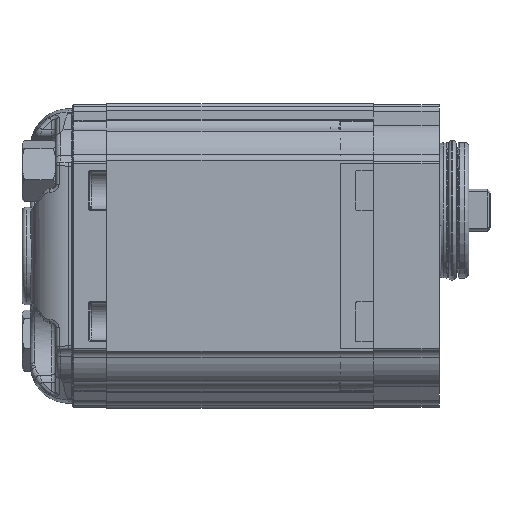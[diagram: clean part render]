
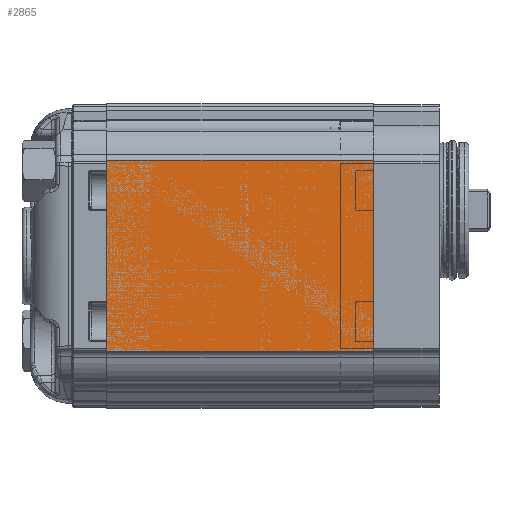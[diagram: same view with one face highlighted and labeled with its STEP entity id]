
A CAD part, left-side view. The second image highlights one B-rep face of the part: STEP entity #2865.
In plain terms, the highlighted planar face has unit normal (-1, 0, 0) as drawn and (1, 0, 0) by its records, which use the part's own axes.
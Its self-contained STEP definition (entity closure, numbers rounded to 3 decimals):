
#2865 = ADVANCED_FACE( '', ( #6403 ), #6404, .T. );
#6403 = FACE_OUTER_BOUND( '', #12538, .T. );
#6404 = PLANE( '', #12539 );
#12538 = EDGE_LOOP( '', ( #22491, #22492, #22493, #22494 ) );
#12539 = AXIS2_PLACEMENT_3D( '', #22495, #22496, #22497 );
#22491 = ORIENTED_EDGE( '', *, *, #30565, .T. );
#22492 = ORIENTED_EDGE( '', *, *, #30431, .T. );
#22493 = ORIENTED_EDGE( '', *, *, #27563, .T. );
#22494 = ORIENTED_EDGE( '', *, *, #30566, .F. );
#22495 = CARTESIAN_POINT( '', ( 33., 133.537, -45.494 ) );
#22496 = DIRECTION( '', ( 1., 0., 0. ) );
#22497 = DIRECTION( '', ( 0., 0., -1. ) );
#27563 = EDGE_CURVE( '', #32270, #32271, #32272, .F. );
#30431 = EDGE_CURVE( '', #36675, #32270, #36676, .T. );
#30565 = EDGE_CURVE( '', #36841, #36675, #36842, .T. );
#30566 = EDGE_CURVE( '', #36841, #32271, #36843, .T. );
#32270 = VERTEX_POINT( '', #39690 );
#32271 = VERTEX_POINT( '', #39691 );
#32272 = LINE( '', #39692, #39693 );
#36675 = VERTEX_POINT( '', #49439 );
#36676 = LINE( '', #49440, #49441 );
#36841 = VERTEX_POINT( '', #49876 );
#36842 = LINE( '', #49877, #49878 );
#36843 = LINE( '', #49879, #49880 );
#39690 = CARTESIAN_POINT( '', ( 33., 0., -22.5 ) );
#39691 = CARTESIAN_POINT( '', ( 33., 63., -22.5 ) );
#39692 = CARTESIAN_POINT( '', ( 33., 63., -22.5 ) );
#39693 = VECTOR( '', #52774, 1000. );
#49439 = CARTESIAN_POINT( '', ( 33., 0., 22.5 ) );
#49440 = CARTESIAN_POINT( '', ( 33., 0., -21.711 ) );
#49441 = VECTOR( '', #56313, 1000. );
#49876 = CARTESIAN_POINT( '', ( 33., 63., 22.5 ) );
#49877 = CARTESIAN_POINT( '', ( 33., 63., 22.5 ) );
#49878 = VECTOR( '', #56465, 1000. );
#49879 = CARTESIAN_POINT( '', ( 33., 63., -21.711 ) );
#49880 = VECTOR( '', #56466, 1000. );
#52774 = DIRECTION( '', ( 0., -1., 0. ) );
#56313 = DIRECTION( '', ( 0., 0., -1. ) );
#56465 = DIRECTION( '', ( 0., -1., 0. ) );
#56466 = DIRECTION( '', ( 0., 0., -1. ) );
